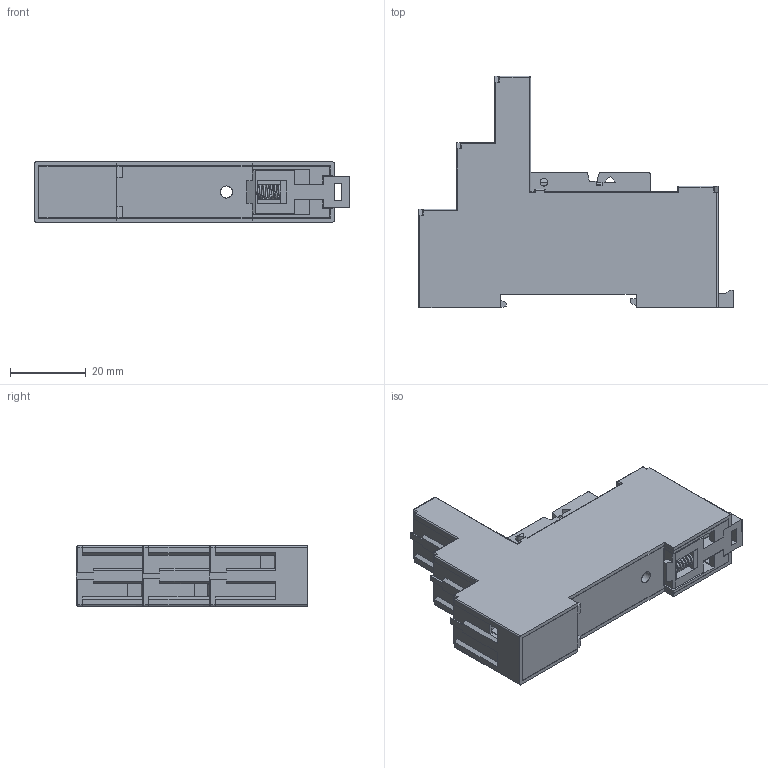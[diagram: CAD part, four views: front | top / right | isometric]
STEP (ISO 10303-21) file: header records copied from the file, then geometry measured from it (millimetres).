
FILE_DESCRIPTION(('STEP AP214'),'2;1');
FILE_NAME('9503_catalogo.stp','2010-09-10T14:35:08',(''),(''),'2007.1.106','THINKDESIGN','');
FILE_SCHEMA(('AUTOMOTIVE_DESIGN'));
Length unit declared in the file: millimetre
Products named in the file (1): None
Bounding box: 82.8 x 60.9 x 15.8 mm (x, y, z)
Surface area: 16895.4 mm2 (no closed solid volume)
Topology: 0 solids, 0 shells, 496 faces, 2728 edges, 2718 vertices
Faces by surface type: plane 412, cylinder 73, bspline 11
Full cylindrical faces by diameter (mm): 2 x3, 3.2 x1, 4.7 x5, 5 x5
Entity records: 28172 total; most frequent: CARTESIAN_POINT 7852, DIRECTION 3599, COMPOSITE_CURVE_SEGMENT 2718, TRIMMED_CURVE 2486, VECTOR 2343, LINE 2343, AXIS2_PLACEMENT_3D 628, OUTER_BOUNDARY_CURVE 496
